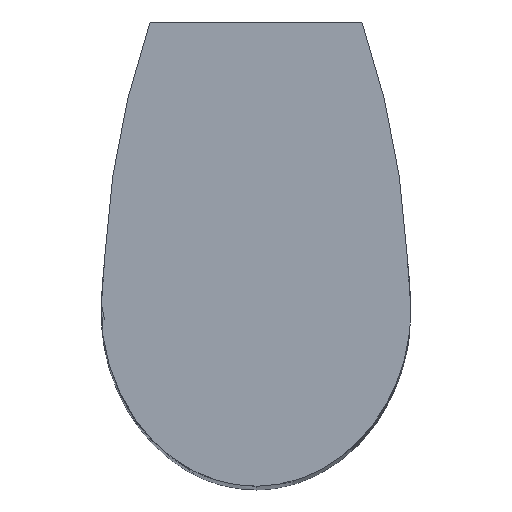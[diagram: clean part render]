
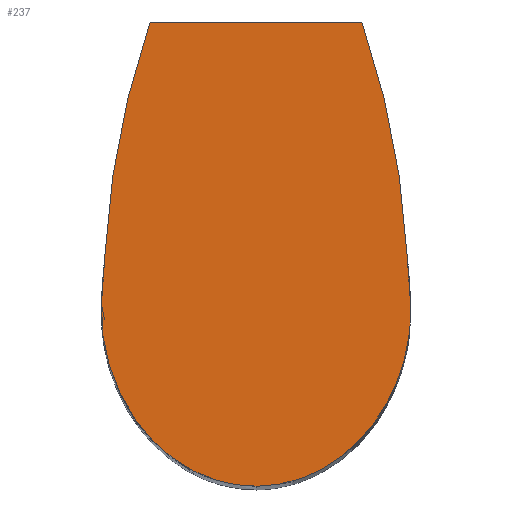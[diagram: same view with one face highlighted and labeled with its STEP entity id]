
A CAD part, top view. The second image highlights one B-rep face of the part: STEP entity #237.
In plain terms, the highlighted planar face has unit normal (0, 0, 1).
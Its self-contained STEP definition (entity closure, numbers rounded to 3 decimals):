
#1=CARTESIAN_POINT('',(0.,-2.908,12.));
#2=CARTESIAN_POINT('',(0.006,-2.908,12.));
#3=CARTESIAN_POINT('',(0.073,-2.907,12.));
#4=CARTESIAN_POINT('',(0.203,-2.888,12.));
#5=CARTESIAN_POINT('',(0.381,-2.814,12.));
#6=CARTESIAN_POINT('',(0.546,-2.695,12.));
#7=CARTESIAN_POINT('',(0.686,-2.533,12.));
#8=CARTESIAN_POINT('',(0.793,-2.338,12.));
#9=CARTESIAN_POINT('',(0.859,-2.119,12.));
#10=CARTESIAN_POINT('',(0.871,-1.964,12.));
#11=CARTESIAN_POINT('',(0.869,-1.887,12.));
#13=CARTESIAN_POINT('',(-0.869,-1.887,12.));
#14=CARTESIAN_POINT('',(-0.871,-1.965,12.));
#15=CARTESIAN_POINT('',(-0.858,-2.121,12.));
#16=CARTESIAN_POINT('',(-0.79,-2.346,12.));
#17=CARTESIAN_POINT('',(-0.677,-2.547,12.));
#18=CARTESIAN_POINT('',(-0.528,-2.712,12.));
#19=CARTESIAN_POINT('',(-0.355,-2.829,12.));
#20=CARTESIAN_POINT('',(-0.176,-2.894,12.));
#21=CARTESIAN_POINT('',(-0.056,-2.908,12.));
#22=CARTESIAN_POINT('',(0.,-2.908,12.));
#24=CARTESIAN_POINT('',(-0.849,-1.612,12.));
#25=CARTESIAN_POINT('',(-0.849,-1.612,12.));
#26=CARTESIAN_POINT('',(-0.852,-1.644,12.));
#27=CARTESIAN_POINT('',(-0.859,-1.706,12.));
#28=CARTESIAN_POINT('',(-0.865,-1.797,12.));
#29=CARTESIAN_POINT('',(-0.868,-1.857,12.));
#30=CARTESIAN_POINT('',(-0.869,-1.887,12.));
#32=CARTESIAN_POINT('',(3.985,-1.865,12.));
#33=DIRECTION('',(0.,0.,-1.));
#34=DIRECTION('',(-0.999,0.052,0.));
#35=AXIS2_PLACEMENT_3D('',#32,#33,#34);
#37=DIRECTION('',(1.,0.,0.));
#38=VECTOR('',#37,1.191);
#39=CARTESIAN_POINT('',(-0.595,-0.3,12.));
#40=LINE('',#39,#38);
#41=CARTESIAN_POINT('',(-3.985,-1.865,12.));
#42=DIRECTION('',(0.,0.,-1.));
#43=DIRECTION('',(0.946,0.323,0.));
#44=AXIS2_PLACEMENT_3D('',#41,#42,#43);
#46=CARTESIAN_POINT('',(0.869,-1.887,12.));
#47=CARTESIAN_POINT('',(0.868,-1.857,12.));
#48=CARTESIAN_POINT('',(0.865,-1.797,12.));
#49=CARTESIAN_POINT('',(0.859,-1.706,12.));
#50=CARTESIAN_POINT('',(0.852,-1.644,12.));
#51=CARTESIAN_POINT('',(0.849,-1.612,12.));
#52=CARTESIAN_POINT('',(0.849,-1.612,12.));
#206=VERTEX_POINT('',#1);
#207=VERTEX_POINT('',#11);
#208=VERTEX_POINT('',#52);
#209=CARTESIAN_POINT('',(0.595,-0.3,12.));
#210=VERTEX_POINT('',#209);
#211=CARTESIAN_POINT('',(-0.595,-0.3,12.));
#212=VERTEX_POINT('',#211);
#213=CARTESIAN_POINT('',(-0.849,-1.612,12.));
#214=VERTEX_POINT('',#213);
#215=VERTEX_POINT('',#30);
#216=CARTESIAN_POINT('',(-0.595,-0.3,12.));
#217=DIRECTION('',(0.,0.,-1.));
#218=DIRECTION('',(1.,0.,0.));
#219=AXIS2_PLACEMENT_3D('',#216,#217,#218);
#220=PLANE('',#219);
#222=ORIENTED_EDGE('',*,*,#221,.F.);
#224=ORIENTED_EDGE('',*,*,#223,.F.);
#226=ORIENTED_EDGE('',*,*,#225,.F.);
#228=ORIENTED_EDGE('',*,*,#227,.T.);
#230=ORIENTED_EDGE('',*,*,#229,.T.);
#232=ORIENTED_EDGE('',*,*,#231,.T.);
#234=ORIENTED_EDGE('',*,*,#233,.F.);
#235=EDGE_LOOP('',(#222,#224,#226,#228,#230,#232,#234));
#236=FACE_OUTER_BOUND('',#235,.F.);
#237=ADVANCED_FACE('',(#236),#220,.F.);
#12=B_SPLINE_CURVE_WITH_KNOTS('',3,(#1,#2,#3,#4,#5,#6,#7,#8,#9,#10,#11),
.UNSPECIFIED.,.F.,.F.,(4,1,1,1,1,1,1,1,4),(0.,0.012,
0.138,0.265,0.401,0.545,
0.693,0.844,1.),.UNSPECIFIED.);
#23=B_SPLINE_CURVE_WITH_KNOTS('',3,(#13,#14,#15,#16,#17,#18,#19,#20,#21,#22),
.UNSPECIFIED.,.F.,.F.,(4,1,1,1,1,1,1,4),(0.,0.156,
0.312,0.466,0.616,0.756,
0.886,1.),.UNSPECIFIED.);
#31=B_SPLINE_CURVE_WITH_KNOTS('',3,(#24,#25,#26,#27,#28,#29,#30),.UNSPECIFIED.,
.F.,.F.,(4,1,1,1,4),(0.,0.005,0.345,0.676,
1.),.UNSPECIFIED.);
#36=CIRCLE('',#35,4.841);
#45=CIRCLE('',#44,4.841);
#53=B_SPLINE_CURVE_WITH_KNOTS('',3,(#46,#47,#48,#49,#50,#51,#52),.UNSPECIFIED.,
.F.,.F.,(4,1,1,1,4),(0.,0.324,0.655,0.995,
1.),.UNSPECIFIED.);
#221=EDGE_CURVE('',#206,#207,#12,.T.);
#223=EDGE_CURVE('',#215,#206,#23,.T.);
#225=EDGE_CURVE('',#214,#215,#31,.T.);
#227=EDGE_CURVE('',#214,#212,#36,.T.);
#229=EDGE_CURVE('',#212,#210,#40,.T.);
#231=EDGE_CURVE('',#210,#208,#45,.T.);
#233=EDGE_CURVE('',#207,#208,#53,.T.);
